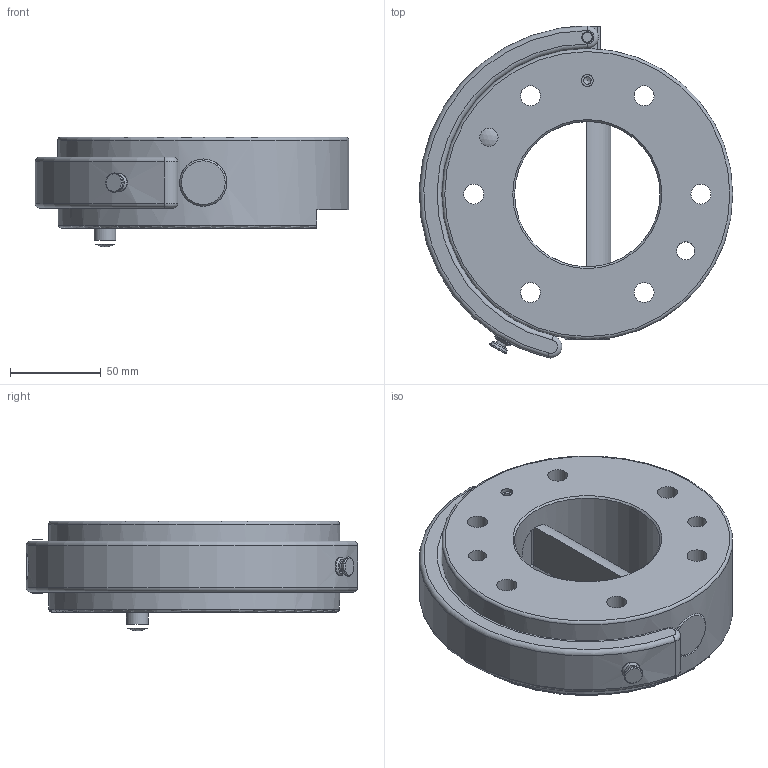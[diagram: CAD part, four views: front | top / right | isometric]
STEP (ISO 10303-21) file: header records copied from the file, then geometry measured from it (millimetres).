
FILE_DESCRIPTION(/* description */ (''),/* implementation_level */ '2;1');
FILE_NAME(/* name */ '\\dc01\daten\CAD\Standard\Daten\3D-Datenbank\MGW\4 - 3D-CAD-Daten MGW 050-160\MGW160\step-Daten\G-MGW160-2OE.stp',/* time_stamp */ '2020-01-20T09:56:17+01:00',/* author */ ('ysplieth'),/* organization */ (''),/* preprocessor_version */ 'ST-DEVELOPER v17',/* originating_system */ 'Autodesk Inventor 2018',/* authorisation */ '');
FILE_SCHEMA (('AUTOMOTIVE_DESIGN { 1 0 10303 214 3 1 1 }'));
Length unit declared in the file: millimetre
Products named in the file (1): Bauteil2
Bounding box: 172.45 x 182.6 x 60.33 mm (x, y, z)
Volume: 805119 mm3; surface area: 124058.8 mm2
Topology: 7 solids, 7 shells, 135 faces, 362 edges, 250 vertices
Faces by surface type: cylinder 55, plane 45, cone 21, torus 12, sphere 2
Full cylindrical faces by diameter (mm): 4.134 x2, 5 x2, 5.5 x1, 5.58 x1, 6 x4, 6.2 x1, 6.5 x1, 6.647 x2, 8 x1, 10 x3, 10.1 x1, 10.6 x1, 11 x6, 12 x2, 18 x6, 26 x3, 80 x1, 160 x1
Entity records: 4956 total; most frequent: CARTESIAN_POINT 1187, DIRECTION 786, ORIENTED_EDGE 712, EDGE_CURVE 356, AXIS2_PLACEMENT_3D 332, VERTEX_POINT 250, CIRCLE 196, EDGE_LOOP 184
